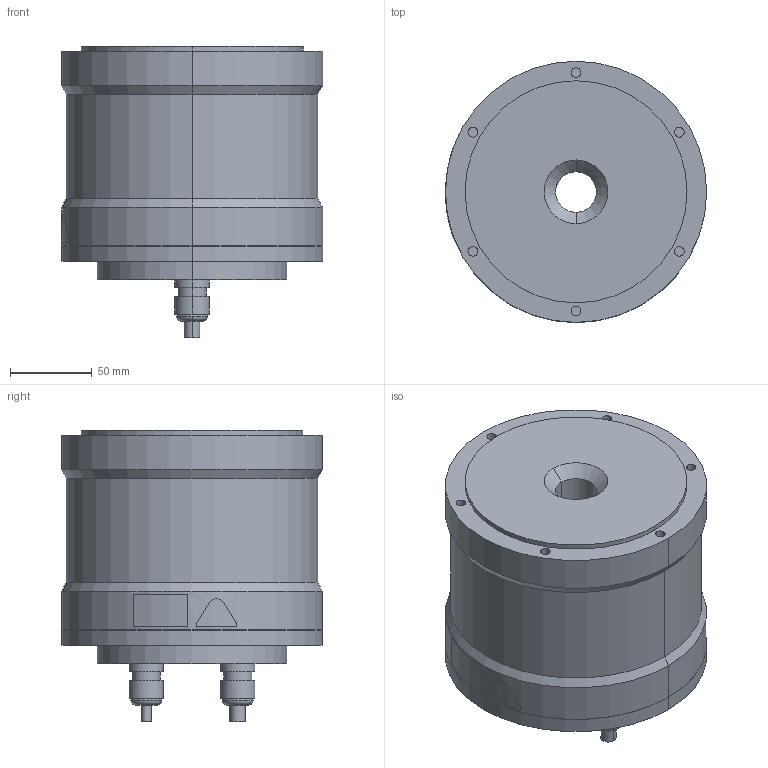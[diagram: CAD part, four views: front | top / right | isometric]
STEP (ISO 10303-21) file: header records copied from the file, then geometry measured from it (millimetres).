
FILE_DESCRIPTION (( 'STEP AP203' ), '1' );
FILE_NAME ('sgm7d_24g_c5_.STEP', '2016-02-22T09:16:21', ( '' ), ( '' ), 'SwSTEP 2.0', 'SolidWorks 2010', '' );
FILE_SCHEMA (( 'CONFIG_CONTROL_DESIGN' ));
Length unit declared in the file: millimetre
Products named in the file (1): sgm7d_24g_c5_
Bounding box: 160.06 x 160 x 178.4 mm (x, y, z)
Volume: 2584683.1 mm3; surface area: 129194.9 mm2
Topology: 1 solids, 1 shells, 211 faces, 469 edges, 308 vertices
Faces by surface type: cylinder 122, plane 74, cone 6, bspline 5, torus 4
Entity records: 6268 total; most frequent: CARTESIAN_POINT 1284, DIRECTION 1123, ORIENTED_EDGE 938, EDGE_CURVE 469, AXIS2_PLACEMENT_3D 463, VERTEX_POINT 308, EDGE_LOOP 261, CIRCLE 256
